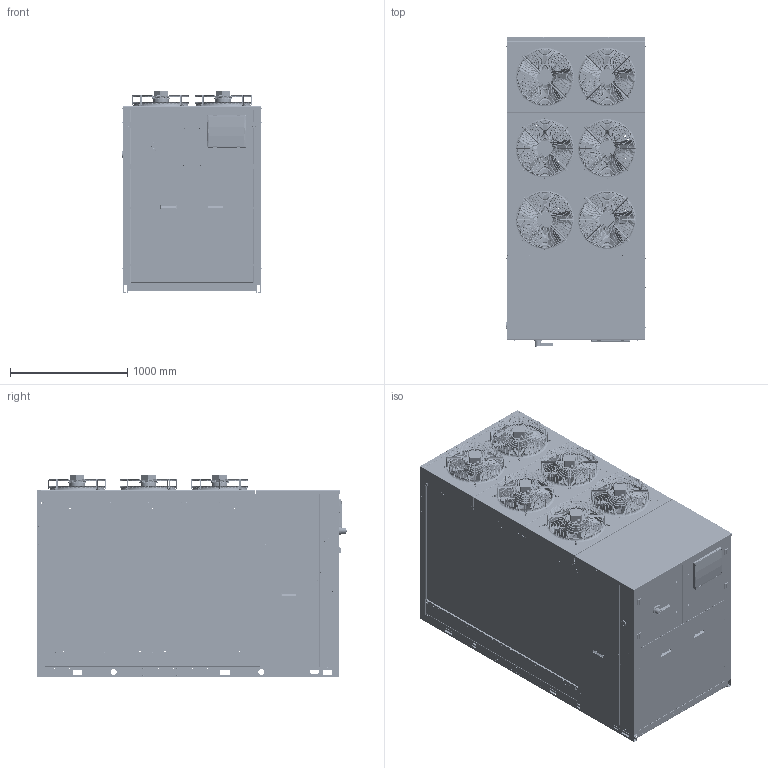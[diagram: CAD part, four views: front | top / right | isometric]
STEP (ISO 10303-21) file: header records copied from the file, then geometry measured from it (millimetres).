
FILE_DESCRIPTION (( 'STEP AP203' ), '1' );
FILE_NAME ('LAUOUT - D5 - 6V.STEP', '2023-09-20T11:37:46', ( '' ), ( '' ), 'SwSTEP 2.0', 'SolidWorks 2013', '' );
FILE_SCHEMA (( 'CONFIG_CONTROL_DESIGN' ));
Length unit declared in the file: millimetre
Products named in the file (167): 92800309; RG82022626; RG05921562; VM85000014_oa_16; RG05921564; HF80000002; HF80000165; RG05911687; RG05927269; HF80000009; RG40002144; VM85000014_oa_15; RG40018049; RG05921567; VM40000403; HF70000039_02; RG05921543; RG05911684; RG11018708; RG10920608; RG05923966; HF56000144S; VM40000338; HF57000030; RG11014920; RG05921565; Fibox_L43II; RG10021739; VM85000014_oa_12; HF80000089; VM40000401; VM85000014_oa_17; RG10921868; HF80000106; RG05921435; VM40000093; HF11000651; VM85000014_oa_10; HF55000021; HF96000076_oa_39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
Assembly tree (997 placements, depth 5):
  LAUOUT - D5 - 6V
    RG10021739
      RG10921867
        RG10920608
          RG05921118
          RG05921119  x3
          hf80000080  x23
        RG10921868
          RG05921869
          RG05921119  x3
          hf80000080  x23
        hf80000080  x33
        RG05920610  x2
        RG05921663  x2
      HF80000002  x128
      92800447  x4
      RG05921585  x2
      1701274
      1700227  x12
      RG10021542_oa_0
        RG50011589
        RG05911687
        RG05921544
        HF80000006  x8
        RG05911685
        RG05911684
        HF80000090  x8
        92800371  x8
        HF80000005  x32
        RG05921543
        HF80000089  x10
        92800322  x10
        RG82022626  x4
        VM85000014_oa_1
        VM85000014_oa_2
        VM85000014_oa_3
        RG82022627  x4
        RG50019891
        VM85000014_oa_4
        VM85000014_oa_5
        VM85000014_oa_6
        VM85000014_oa_7
        VM85000014_oa_8
      RG05922536  x3
      RG10021542_oa_9
        RG50011589
        RG05911687
        RG05921544
        HF80000006  x8
        RG05911685
        RG05911684
        HF80000090  x8
        92800371  x8
        HF80000005  x32
        RG05921543
        HF80000089  x10
        92800322  x10
        RG82022626  x4
        VM85000014_oa_10
        VM85000014_oa_11
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Bounding box: 1189.89 x 2647.89 x 1726.7 mm (x, y, z)
Volume: 294587249.3 mm3; surface area: 81088339.2 mm2
Topology: 1039 solids, 1069 shells, 40208 faces, 109482 edges, 71419 vertices
Faces by surface type: plane 21358, cylinder 12194, bspline 5631, cone 575, torus 450
Entity records: 512567 total; most frequent: CARTESIAN_POINT 111995, ORIENTED_EDGE 75692, DIRECTION 73476, EDGE_CURVE 37886, LINE 26074, VECTOR 26074, VERTEX_POINT 24901, AXIS2_PLACEMENT_3D 23701
